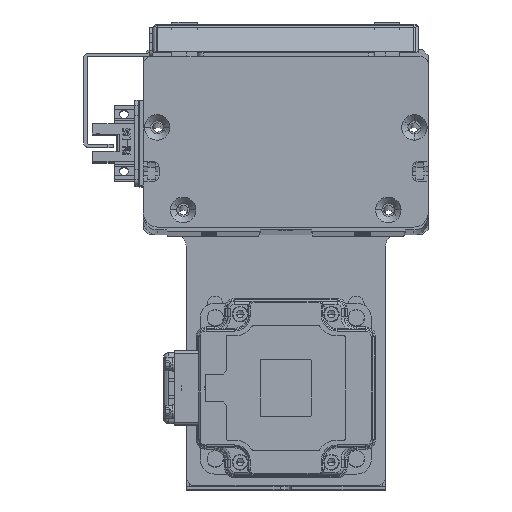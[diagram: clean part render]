
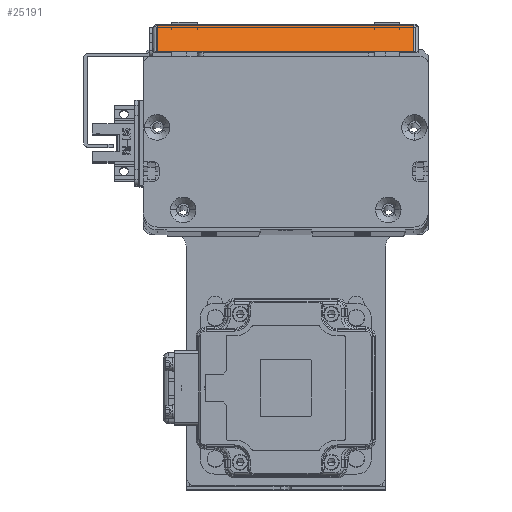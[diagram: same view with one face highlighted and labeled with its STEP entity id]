
A CAD part, top view. The second image highlights one B-rep face of the part: STEP entity #25191.
In plain terms, the highlighted planar face has unit normal (0, 0.707, 0.707) as drawn and (-0.707, 0, -0.707) by its records, which use the part's own axes.
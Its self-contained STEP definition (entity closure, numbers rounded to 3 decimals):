
#1192 = DIRECTION ( 'NONE',  ( -0.707, 0., 0.707 ) ) ;
#2490 = CARTESIAN_POINT ( 'NONE',  ( -66.5, 1.7, 4.1 ) ) ;
#2520 = VERTEX_POINT ( 'NONE', #54541 ) ;
#2795 = VECTOR ( 'NONE', #26637, 1000. ) ;
#7038 = LINE ( 'NONE', #9213, #2795 ) ;
#7612 = VECTOR ( 'NONE', #36007, 1000. ) ;
#7705 = PLANE ( 'NONE',  #52345 ) ;
#9213 = CARTESIAN_POINT ( 'NONE',  ( -66.5, 93.4, 4.1 ) ) ;
#12745 = VECTOR ( 'NONE', #52032, 1000. ) ;
#13383 = EDGE_CURVE ( 'NONE', #69965, #46420, #14457, .T. ) ;
#14457 = LINE ( 'NONE', #56792, #12745 ) ;
#17073 = EDGE_CURVE ( 'NONE', #29819, #2520, #7038, .T. ) ;
#18648 = DIRECTION ( 'NONE',  ( -0.707, 0., 0.707 ) ) ;
#19113 = DIRECTION ( 'NONE',  ( -0.707, 0., -0.707 ) ) ;
#20402 = LINE ( 'NONE', #35997, #7612 ) ;
#22575 = ORIENTED_EDGE ( 'NONE', *, *, #63270, .T. ) ;
#25191 = ADVANCED_FACE ( 'NONE', ( #39335 ), #7705, .T. ) ;
#26637 = DIRECTION ( 'NONE',  ( 0., 1., 0. ) ) ;
#29819 = VERTEX_POINT ( 'NONE', #2490 ) ;
#35997 = CARTESIAN_POINT ( 'NONE',  ( -68., 91.7, 5.6 ) ) ;
#36007 = DIRECTION ( 'NONE',  ( 0.707, 0., -0.707 ) ) ;
#37963 = ORIENTED_EDGE ( 'NONE', *, *, #64246, .T. ) ;
#39335 = FACE_OUTER_BOUND ( 'NONE', #69363, .T. ) ;
#39978 = ORIENTED_EDGE ( 'NONE', *, *, #13383, .T. ) ;
#42569 = VECTOR ( 'NONE', #1192, 1000. ) ;
#43422 = CARTESIAN_POINT ( 'NONE',  ( -57.298, 1.7, -5.102 ) ) ;
#46420 = VERTEX_POINT ( 'NONE', #43422 ) ;
#51419 = CARTESIAN_POINT ( 'NONE',  ( -68., 93.4, 5.6 ) ) ;
#52032 = DIRECTION ( 'NONE',  ( 0., -1., 0. ) ) ;
#52345 = AXIS2_PLACEMENT_3D ( 'NONE', #51419, #19113, #18648 ) ;
#54541 = CARTESIAN_POINT ( 'NONE',  ( -66.5, 91.7, 4.1 ) ) ;
#56792 = CARTESIAN_POINT ( 'NONE',  ( -57.298, 93.4, -5.102 ) ) ;
#57076 = LINE ( 'NONE', #66238, #42569 ) ;
#59022 = CARTESIAN_POINT ( 'NONE',  ( -57.298, 91.7, -5.102 ) ) ;
#63270 = EDGE_CURVE ( 'NONE', #2520, #69965, #20402, .T. ) ;
#64246 = EDGE_CURVE ( 'NONE', #46420, #29819, #57076, .T. ) ;
#64544 = ORIENTED_EDGE ( 'NONE', *, *, #17073, .T. ) ;
#66238 = CARTESIAN_POINT ( 'NONE',  ( -68., 1.7, 5.6 ) ) ;
#69363 = EDGE_LOOP ( 'NONE', ( #37963, #64544, #22575, #39978 ) ) ;
#69965 = VERTEX_POINT ( 'NONE', #59022 ) ;
